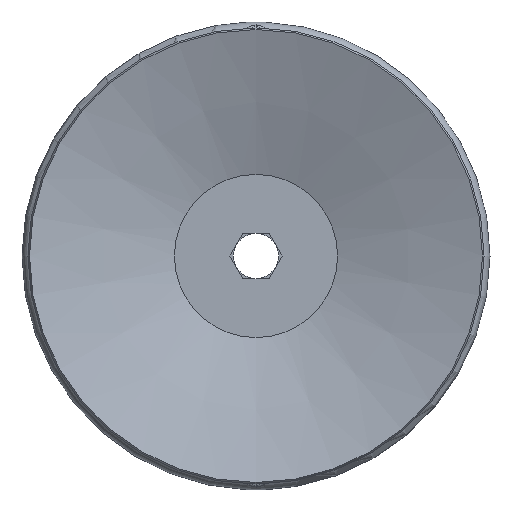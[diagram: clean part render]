
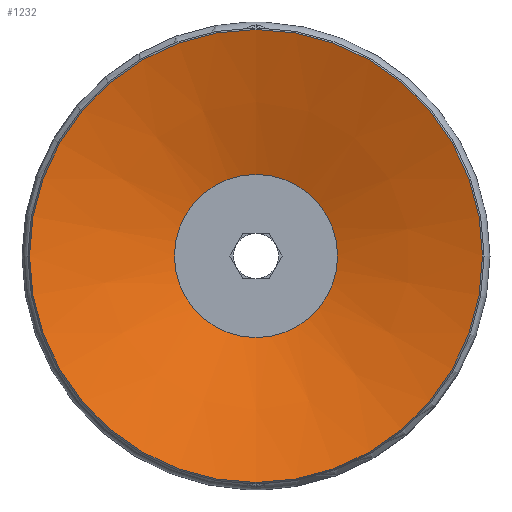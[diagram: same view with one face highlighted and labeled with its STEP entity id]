
A CAD part, front view. The second image highlights one B-rep face of the part: STEP entity #1232.
In plain terms, the highlighted conical face has half-angle 71.075 degrees and reference radius 15 mm.
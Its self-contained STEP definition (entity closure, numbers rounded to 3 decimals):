
#1232=ADVANCED_FACE('',(#2938,#2939),#2940,.F.);
#2938=FACE_BOUND('',#5213,.T.);
#2939=FACE_OUTER_BOUND('',#5214,.T.);
#2940=CONICAL_SURFACE('',#5215,15.0,1.24);
#5213=EDGE_LOOP('',(#8529));
#5214=EDGE_LOOP('',(#8530));
#5215=AXIS2_PLACEMENT_3D('',#8531,#8532,#8533);
#8529=ORIENTED_EDGE('',*,*,#14867,.T.);
#8530=ORIENTED_EDGE('',*,*,#14868,.T.);
#8531=CARTESIAN_POINT('',(0.,0.,0.0));
#8532=DIRECTION('',(0.0,0.,-1.0));
#8533=DIRECTION('',(0.0,1.0,0.));
#14867=EDGE_CURVE('',#18312,#18312,#18313,.T.);
#14868=EDGE_CURVE('',#18314,#18314,#18315,.T.);
#18312=VERTEX_POINT('',#24010);
#18313=CIRCLE('',#24011,5.4);
#18314=VERTEX_POINT('',#24012);
#18315=CIRCLE('',#24013,15.0);
#24010=CARTESIAN_POINT('',(-5.4,0.,3.291));
#24011=AXIS2_PLACEMENT_3D('',#29709,#29710,#29711);
#24012=CARTESIAN_POINT('',(0.,15.0,0.));
#24013=AXIS2_PLACEMENT_3D('',#29712,#29713,#29714);
#29709=CARTESIAN_POINT('',(0.,0.,3.291));
#29710=DIRECTION('',(0.,0.0,1.0));
#29711=DIRECTION('',(-1.0,0.0,0.));
#29712=CARTESIAN_POINT('',(0.,0.,0.0));
#29713=DIRECTION('',(0.0,0.,-1.0));
#29714=DIRECTION('',(0.0,1.0,0.));
